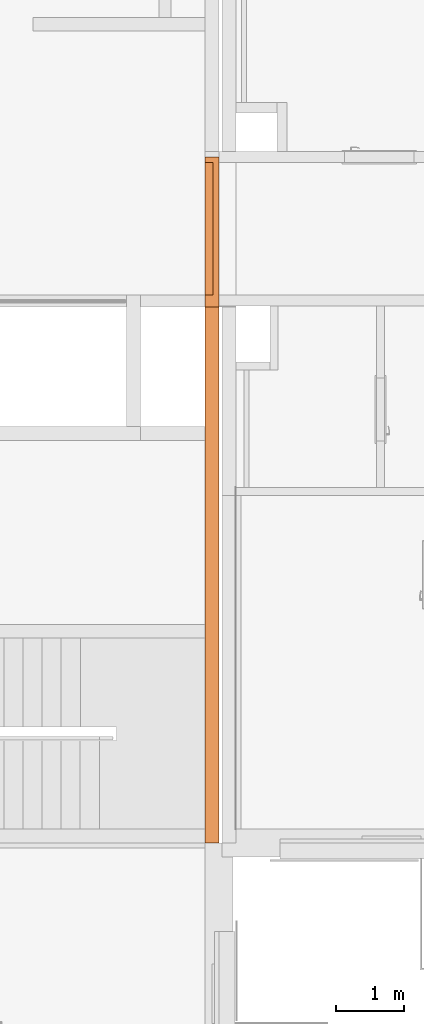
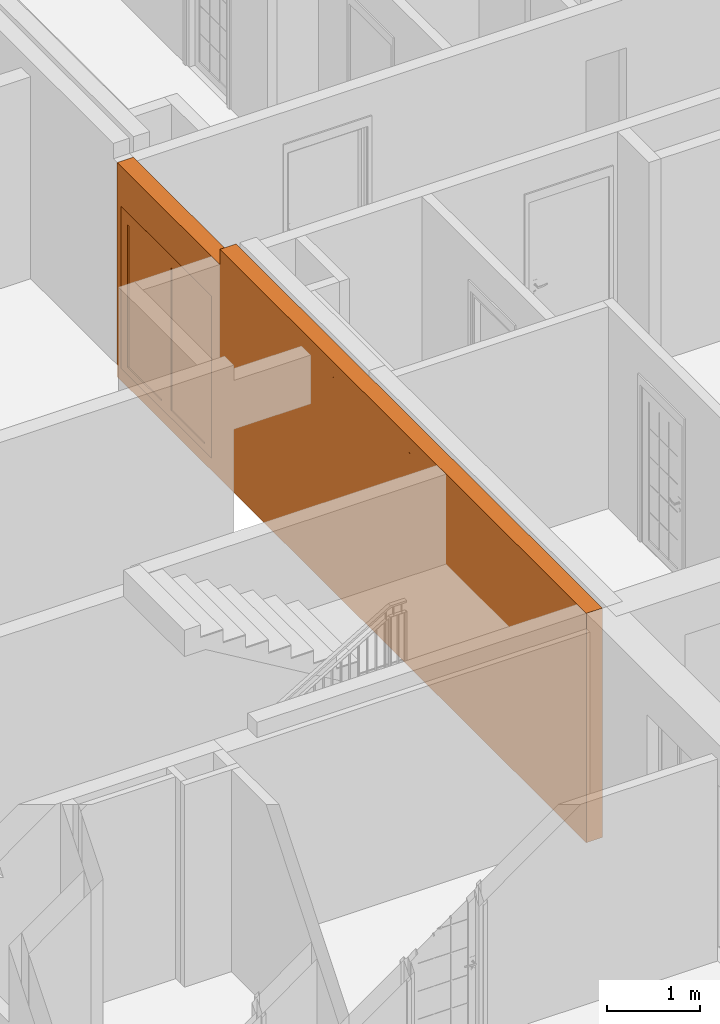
# One storey, part 21 of 67: 2 proxies, 1 opening.
"""IFC2X3 building model written with IfcOpenShell, lengths in millimetres."""

from ifc_helpers import new_model, entity, si_unit, converted_unit, derived_unit, money_unit, direction, frame, origin_with_axes, origin_2d_with_axis, place, context, subcontext, project, spatial, rectangle, extrude, open_shell, faceted_brep, surface_model, source, transform, mapped, material, type_object, element, fill, save


model = new_model("IFC2X3")

# Units and contexts
model_context = context("Model", 3, precision=0.01, world=origin_with_axes(), true_north=direction((0.34421633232, 0.938890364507)))
body_context = subcontext(model_context, "Body", "Model", "MODEL_VIEW")
ifc_project = project(units=[si_unit("LENGTHUNIT", "METRE", prefix="MILLI"), si_unit("AREAUNIT", "SQUARE_METRE"), si_unit("VOLUMEUNIT", "CUBIC_METRE"), converted_unit("PLANEANGLEUNIT", "DEGREE", entity("IfcPlaneAngleMeasure", 0.0174532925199), si_unit("PLANEANGLEUNIT", "RADIAN"), dimensions=[0, 0, 0, 0, 0, 0, 0]), si_unit("SOLIDANGLEUNIT", "STERADIAN"), money_unit("USD"), converted_unit("TIMEUNIT", "Year", entity("IfcTimeMeasure", 31556926.0), si_unit("TIMEUNIT", "SECOND"), dimensions=[0, 0, 1, 0, 0, 0, 0]), si_unit("MASSUNIT", "GRAM", prefix="KILO"), si_unit("THERMODYNAMICTEMPERATUREUNIT", "DEGREE_CELSIUS"), si_unit("LUMINOUSINTENSITYUNIT", "LUMEN"), si_unit("ENERGYUNIT", "JOULE", prefix="MEGA"), derived_unit("THERMALCONDUCTANCEUNIT", [(si_unit("POWERUNIT", "WATT"), 1), (si_unit("LENGTHUNIT", "METRE"), -1), (si_unit("THERMODYNAMICTEMPERATUREUNIT", "KELVIN"), -1)]), derived_unit("SPECIFICHEATCAPACITYUNIT", [(si_unit("ENERGYUNIT", "JOULE"), 1), (si_unit("MASSUNIT", "GRAM", prefix="KILO"), -1), (si_unit("THERMODYNAMICTEMPERATUREUNIT", "KELVIN"), -1)]), derived_unit("MASSDENSITYUNIT", [(si_unit("MASSUNIT", "GRAM", prefix="KILO"), 1), (si_unit("VOLUMEUNIT", "CUBIC_METRE"), -1)])], contexts=[model_context])

# Site, building, storey
site_placement = place(None, origin_with_axes())
site = spatial("IfcSite", under=ifc_project, at=site_placement, Name="USTRONIE MORSKIE", CompositionType="ELEMENT")
building_placement = place(site_placement, origin_with_axes())
building = spatial("IfcBuilding", under=site, at=building_placement, Name="Budynek", CompositionType="ELEMENT")
storey_placement = place(building_placement, frame((0.0, 0.0, 4000.0), z_axis=(0.0, 0.0, 1.0), x_axis=(1.0, 0.0, 0.0)))
storey = spatial("IfcBuildingStorey", under=building, at=storey_placement, Name="PIĘTRO 1", CompositionType="ELEMENT", Elevation=4000.0)

# Proxies, opening
ifc_material = material(Name="Beton konstrukcyjny B25")
building_element_proxy_type_1 = type_object("IfcBuildingElementProxyType", Name="Beton konstrukcyjny B25 200", PredefinedType="NOTDEFINED")
proxy_1_placement = place(storey_placement, frame((367067.920337, 726801.199036, -160.0), z_axis=(0.0, 0.0, 1.0), x_axis=(5.79399538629e-08, 1.0, 0.0)))
proxy_1 = element("IfcBuildingElementProxy", 1, at=proxy_1_placement, inside=storey, type_object=building_element_proxy_type_1, material=ifc_material, Name="SW-01", context=body_context, shape_type="Brep", body=[
    faceted_brep([(10049.9999942, 100.000582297, 0.0), (10049.9999942, 100.000582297, 2800.0), (10050.0000058, -99.9994177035, 2800.0), (10050.0000058, -99.9994177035, 0.0), (7849.99994329, 100.000454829, 3000.0), (7849.99994329, 100.000454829, 2800.0), (-5.79393599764e-06, 100.0, 0.0), (-5.79393599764e-06, 100.0, 3000.0), (3199.99995119, 100.000185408, 3000.0), (3199.99995119, 100.000185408, 2800.0), (6099.99999421, 100.000353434, 2800.0), (6099.99999421, 100.000353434, 3000.0), (7849.99995488, -99.9995451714, 2800.0), (7849.99995488, -99.9995451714, 3000.0), (5.79404968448e-06, -100.0, 3000.0), (5.79404968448e-06, -100.0, 0.0), (6099.99999421, 99.9453472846, 3000.0), (3199.9999512, 99.9451792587, 3000.0), (3199.9999512, 99.9451792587, 2800.0), (6099.99999421, 99.9453472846, 2800.0)], [[[0, 1, 2, 3]], [[4, 5, 1, 0, 6, 7, 8, 9, 10, 11]], [[5, 12, 2, 1]], [[2, 12, 13, 14, 15, 3]], [[0, 3, 15, 6]], [[5, 4, 13, 12]], [[6, 15, 14, 7]], [[14, 13, 4, 11, 16, 17, 8, 7]], [[9, 8, 17, 18]], [[19, 10, 9, 18]], [[19, 16, 11, 10]], [[18, 17, 16, 19]]]),
])
opening_placement = place(proxy_1_placement, frame((9000.00001521, 0.0, 160.0), z_axis=(0.0, 0.0, 1.0), x_axis=(1.0, 0.0, 0.0)))
opening = element("IfcOpeningElement", 2, at=opening_placement, cuts=proxy_1, Name="Dw.6", context=body_context, shape_type="SweptSolid", body=[
    extrude(rectangle(XDim=1940.0, YDim=2120.0, at=origin_2d_with_axis()), frame((5.79393599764e-06, -200.0, 1060.0), z_axis=(-5.79399538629e-08, 1.0, 0.0), x_axis=(1.0, 5.79399538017e-08, 0.0)), (0.0, 0.0, 1.0), 600.0),
])
building_element_proxy_type_2 = type_object("IfcBuildingElementProxyType", Name="Drzwi podwójne 23", PredefinedType="NOTDEFINED")
shared_shape = source(origin_with_axes(), body_context, "Body", "SurfaceModel", [
    faceted_brep([(-910.0, -40.0, 0.0), (-910.0, -40.0, 2050.0), (-910.0, -115.0, 2050.0), (-910.0, -115.0, 0.0), (-922.0, -40.0, 2050.0), (-922.0, -40.0, 0.0), (-922.0, 0.0, 2050.0), (-970.0, 0.0, 2050.0), (-970.0, -115.0, 2050.0), (-970.0, -115.0, 0.0), (-970.0, 0.0, 0.0), (-922.0, 0.0, 0.0)], [[[0, 1, 2, 3]], [[4, 1, 0, 5]], [[4, 6, 7, 8, 2, 1]], [[3, 2, 8, 9]], [[5, 0, 3, 9, 10, 11]], [[6, 4, 5, 11]], [[6, 11, 10, 7]], [[10, 9, 8, 7]]]),
    faceted_brep([(922.0, -40.0, 2050.0), (910.0, -40.0, 2050.0), (910.0, -115.0, 2050.0), (970.0, -115.0, 2050.0), (970.0, 0.0, 2050.0), (922.0, 0.0, 2050.0), (922.0, -40.0, 0.0), (910.0, -40.0, 0.0), (910.0, -115.0, 0.0), (970.0, -115.0, 0.0), (970.0, 0.0, 0.0), (922.0, 0.0, 0.0)], [[[0, 1, 2, 3, 4, 5]], [[1, 0, 6, 7]], [[1, 7, 8, 2]], [[3, 2, 8, 9]], [[4, 3, 9, 10]], [[11, 5, 4, 10]], [[0, 5, 11, 6]], [[6, 11, 10, 9, 8, 7]]]),
    faceted_brep([(-922.0, 0.0, 2062.0), (-922.0, 0.0, 2050.0), (-970.0, 0.0, 2050.0), (-970.0, 0.0, 2120.0), (970.0, 0.0, 2120.0), (970.0, 0.0, 2050.0), (922.0, 0.0, 2050.0), (922.0, 0.0, 2062.0), (-922.0, -40.0, 2062.0), (-922.0, -40.0, 2050.0), (-910.0, -40.0, 2050.0), (-910.0, -115.0, 2050.0), (-970.0, -115.0, 2050.0), (-970.0, -115.0, 2120.0), (970.0, -115.0, 2120.0), (970.0, -115.0, 2050.0), (922.0, -40.0, 2050.0), (910.0, -115.0, 2050.0), (910.0, -40.0, 2050.0), (922.0, -40.0, 2062.0)], [[[0, 1, 2, 3, 4, 5, 6, 7]], [[1, 0, 8, 9]], [[9, 10, 11, 12, 2, 1]], [[2, 12, 13, 3]], [[3, 13, 14, 4]], [[4, 14, 15, 5]], [[16, 6, 5, 15, 17, 18]], [[7, 6, 16, 19]], [[0, 7, 19, 8]], [[16, 18, 10, 9, 8, 19]], [[10, 18, 17, 11]], [[17, 15, 14, 13, 12, 11]]]),
    faceted_brep([(922.0, 0.0, 100.0), (922.0, -40.0, 100.0), (822.0, -40.0, 100.0), (822.0, 0.0, 100.0), (922.0, 0.0, 1962.0), (922.0, -40.0, 1962.0), (822.0, -40.0, 1962.0), (822.0, 0.0, 1962.0)], [[[0, 1, 2, 3]], [[4, 5, 1, 0]], [[1, 5, 6, 2]], [[3, 2, 6, 7]], [[0, 3, 7, 4]], [[7, 6, 5, 4]]]),
    faceted_brep([(0.0, 0.0, 100.0), (0.0, -40.0, 100.0), (0.0, -40.0, 1962.0), (0.0, 0.0, 1962.0), (100.0, 0.0, 100.0), (100.0, -40.0, 100.0), (100.0, -40.0, 1962.0), (100.0, 0.0, 1962.0)], [[[0, 1, 2, 3]], [[4, 5, 1, 0]], [[1, 5, 6, 2]], [[3, 2, 6, 7]], [[0, 3, 7, 4]], [[7, 6, 5, 4]]]),
    faceted_brep([(922.0, 0.0, 0.0), (922.0, -40.0, 0.0), (0.0, -40.0, 0.0), (0.0, 0.0, 0.0), (922.0, 0.0, 100.0), (922.0, -40.0, 100.0), (822.0, -40.0, 100.0), (100.0, -40.0, 100.0), (0.0, -40.0, 100.0), (0.0, 0.0, 100.0), (100.0, 0.0, 100.0), (822.0, 0.0, 100.0)], [[[0, 1, 2, 3]], [[4, 5, 1, 0]], [[1, 5, 6, 7, 8, 2]], [[3, 2, 8, 9]], [[0, 3, 9, 10, 11, 4]], [[11, 6, 5, 4]], [[10, 7, 6, 11]], [[9, 8, 7, 10]]]),
    faceted_brep([(922.0, 0.0, 2062.0), (922.0, -40.0, 2062.0), (922.0, -40.0, 1962.0), (922.0, 0.0, 1962.0), (0.0, 0.0, 2062.0), (0.0, -40.0, 2062.0), (0.0, -40.0, 1962.0), (100.0, -40.0, 1962.0), (822.0, -40.0, 1962.0), (822.0, 0.0, 1962.0), (100.0, 0.0, 1962.0), (0.0, 0.0, 1962.0)], [[[0, 1, 2, 3]], [[4, 5, 1, 0]], [[1, 5, 6, 7, 8, 2]], [[3, 2, 8, 9]], [[0, 3, 9, 10, 11, 4]], [[11, 6, 5, 4]], [[10, 7, 6, 11]], [[9, 8, 7, 10]]]),
    surface_model("IfcShellBasedSurfaceModel", [(822.0, -14.0, 100.0), (100.0, -14.0, 100.0), (100.0, -14.0, 1962.0), (822.0, -14.0, 1962.0)], [open_shell([[[0, 1, 2, 3]]])]),
    surface_model("IfcShellBasedSurfaceModel", [(822.0, -26.0, 100.0), (822.0, -26.0, 1962.0), (100.0, -26.0, 1962.0), (100.0, -26.0, 100.0)], [open_shell([[[0, 1, 2, 3]]])]),
    faceted_brep([(-922.0, 0.0, 100.0), (-822.0, 0.0, 100.0), (-822.0, -40.0, 100.0), (-922.0, -40.0, 100.0), (-922.0, 0.0, 1962.0), (-822.0, 0.0, 1962.0), (-822.0, -40.0, 1962.0), (-922.0, -40.0, 1962.0)], [[[0, 1, 2, 3]], [[0, 4, 5, 1]], [[1, 5, 6, 2]], [[3, 2, 6, 7]], [[4, 0, 3, 7]], [[5, 4, 7, 6]]]),
    faceted_brep([(0.0, 0.0, 100.0), (0.0, 0.0, 1962.0), (0.0, -40.0, 1962.0), (0.0, -40.0, 100.0), (-100.0, 0.0, 100.0), (-100.0, 0.0, 1962.0), (-100.0, -40.0, 1962.0), (-100.0, -40.0, 100.0)], [[[0, 1, 2, 3]], [[0, 4, 5, 1]], [[1, 5, 6, 2]], [[3, 2, 6, 7]], [[4, 0, 3, 7]], [[5, 4, 7, 6]]]),
    faceted_brep([(-922.0, 0.0, 0.0), (0.0, 0.0, 0.0), (0.0, -40.0, 0.0), (-922.0, -40.0, 0.0), (-922.0, 0.0, 100.0), (-822.0, 0.0, 100.0), (-100.0, 0.0, 100.0), (0.0, 0.0, 100.0), (0.0, -40.0, 100.0), (-100.0, -40.0, 100.0), (-822.0, -40.0, 100.0), (-922.0, -40.0, 100.0)], [[[0, 1, 2, 3]], [[0, 4, 5, 6, 7, 1]], [[1, 7, 8, 2]], [[3, 2, 8, 9, 10, 11]], [[4, 0, 3, 11]], [[5, 4, 11, 10]], [[6, 5, 10, 9]], [[7, 6, 9, 8]]]),
    faceted_brep([(-922.0, 0.0, 2062.0), (-922.0, 0.0, 1962.0), (-922.0, -40.0, 1962.0), (-922.0, -40.0, 2062.0), (0.0, 0.0, 2062.0), (0.0, 0.0, 1962.0), (-100.0, 0.0, 1962.0), (-822.0, 0.0, 1962.0), (-822.0, -40.0, 1962.0), (-100.0, -40.0, 1962.0), (0.0, -40.0, 1962.0), (0.0, -40.0, 2062.0)], [[[0, 1, 2, 3]], [[0, 4, 5, 6, 7, 1]], [[1, 7, 8, 2]], [[3, 2, 8, 9, 10, 11]], [[4, 0, 3, 11]], [[5, 4, 11, 10]], [[6, 5, 10, 9]], [[7, 6, 9, 8]]]),
    surface_model("IfcShellBasedSurfaceModel", [(-822.0, -14.0, 100.0), (-822.0, -14.0, 1962.0), (-100.0, -14.0, 1962.0), (-100.0, -14.0, 100.0)], [open_shell([[[0, 1, 2, 3]]])]),
    surface_model("IfcShellBasedSurfaceModel", [(-822.0, -26.0, 100.0), (-100.0, -26.0, 100.0), (-100.0, -26.0, 1962.0), (-822.0, -26.0, 1962.0)], [open_shell([[[0, 1, 2, 3]]])]),
])
proxy_2_placement = place(opening_placement, frame((-910.0, 0.0, 0.0), z_axis=(0.0, 0.0, 1.0), x_axis=(1.0, 0.0, 0.0)))
proxy_2 = element("IfcBuildingElementProxy", 3, at=proxy_2_placement, inside=storey, type_object=building_element_proxy_type_2, Name="Dw.6", context=body_context, shape_type="MappedRepresentation", body=[
    mapped(shared_shape, transform((909.999988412, 100.00052146, 0.0))),
])
fill(opening, proxy_2)

save(model, "model.ifc")
